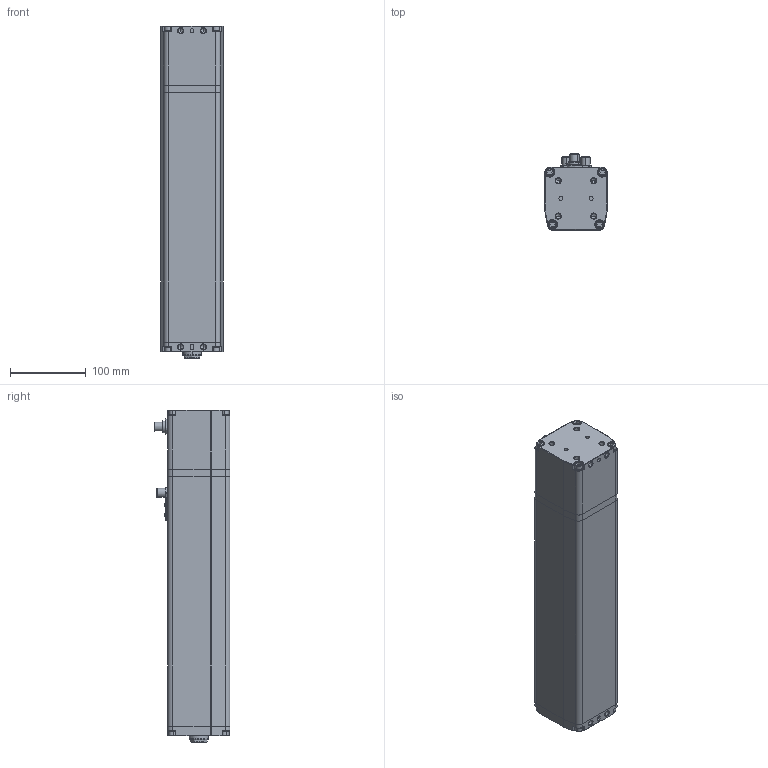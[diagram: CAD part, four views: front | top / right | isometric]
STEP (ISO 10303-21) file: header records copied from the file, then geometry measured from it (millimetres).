
FILE_DESCRIPTION (( 'STEP AP203' ), '1' );
FILE_NAME ('CTC-080-K__-____-_.step', '2023-09-29T10:08:04', ( '' ), ( '' ), 'SwSTEP 2.0', 'SolidWorks 2020', '' );
FILE_SCHEMA (( 'CONFIG_CONTROL_DESIGN' ));
Length unit declared in the file: millimetre
Products named in the file (4): CTC-080_housing_Hub_0250_Bremse; CTC-080_Aufsatz-I_M10; CTC-080-K__-____-_; CTC-080_Schubrohr_Hub 0250
Assembly tree (3 placements, depth 2):
  CTC-080-K__-____-_
    CTC-080_housing_Hub_0250_Bremse
    CTC-080_Schubrohr_Hub 0250
    CTC-080_Aufsatz-I_M10
Bounding box: 82 x 99.6 x 437 mm (x, y, z)
Volume: 2564332.2 mm3; surface area: 316989.4 mm2
Topology: 34 solids, 34 shells, 858 faces, 1912 edges, 1186 vertices
Faces by surface type: cylinder 338, plane 326, cone 102, torus 84, sphere 8
Entity records: 24154 total; most frequent: DIRECTION 4470, CARTESIAN_POINT 4156, ORIENTED_EDGE 3772, EDGE_CURVE 1886, AXIS2_PLACEMENT_3D 1768, VERTEX_POINT 1186, EDGE_LOOP 956, LINE 934
